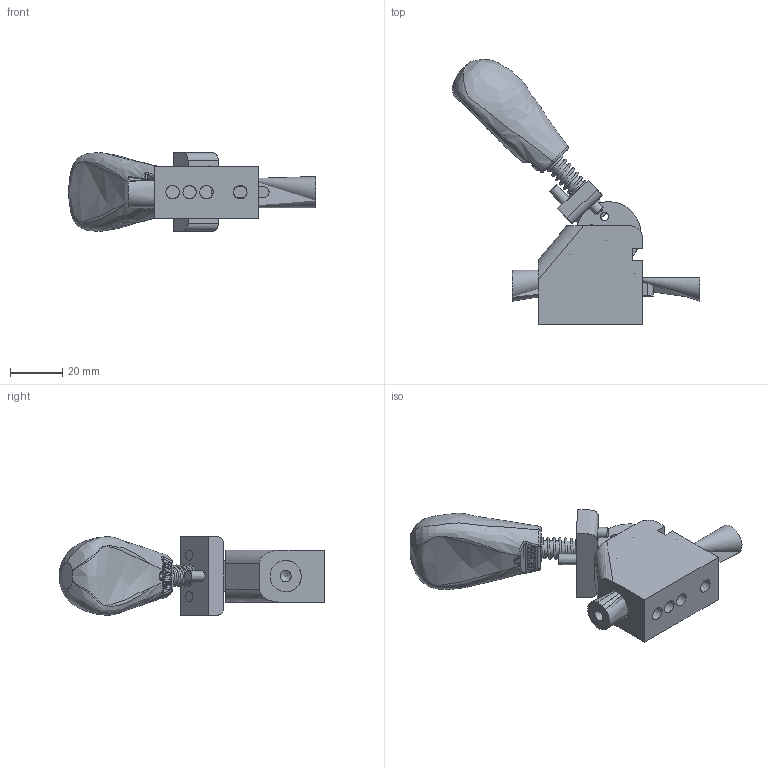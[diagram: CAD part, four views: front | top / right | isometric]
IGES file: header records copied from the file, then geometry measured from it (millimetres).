
Global section: file name: YSP-22ST-L-UNCLAMP; native system: Autodesk Inventor 2019; preprocessor: unknown; author: 桶田 勝弘,,  11,0; organization: 20171006.074515; date: 20240514.164339; units: millimetre
Bounding box: 95.13 x 102 x 30.18 mm (x, y, z)
Volume: 51356.2 mm3; surface area: 22415.7 mm2
Topology: 10 solids, 10 shells, 233 faces, 644 edges, 431 vertices
Faces by surface type: bspline 233
